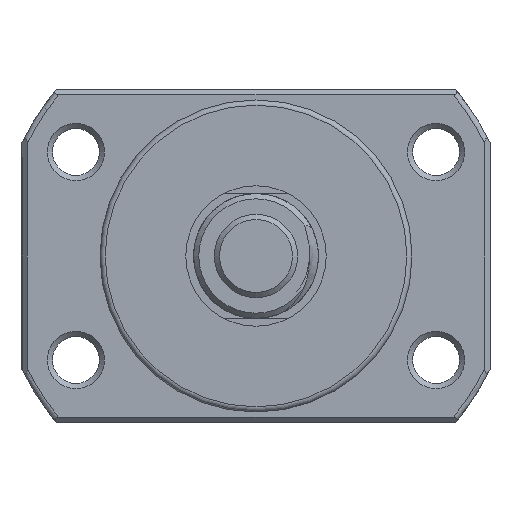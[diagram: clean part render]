
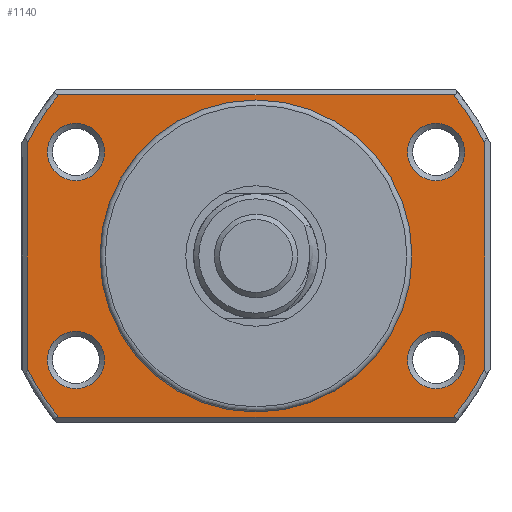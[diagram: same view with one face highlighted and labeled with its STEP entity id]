
A CAD part, left-side view. The second image highlights one B-rep face of the part: STEP entity #1140.
In plain terms, the highlighted planar face has unit normal (-1, 0, 0).
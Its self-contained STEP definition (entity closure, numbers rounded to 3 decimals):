
#128 = EDGE_LOOP ( 'NONE', ( #3822 ) ) ;
#306 = CARTESIAN_POINT ( 'NONE',  ( -10.324, -22., 0. ) ) ;
#583 = EDGE_CURVE ( 'NONE', #4762, #10753, #14705, .T. ) ;
#698 = CARTESIAN_POINT ( 'NONE',  ( -10.324, 15., -15.5 ) ) ;
#712 = FACE_BOUND ( 'NONE', #2018, .T. ) ;
#1036 = DIRECTION ( 'NONE',  ( 1., 0., 0. ) ) ;
#1057 = AXIS2_PLACEMENT_3D ( 'NONE', #12695, #10458, #15144 ) ;
#1086 = ORIENTED_EDGE ( 'NONE', *, *, #10272, .T. ) ;
#1140 = ADVANCED_FACE ( 'NONE', ( #712, #8031, #13872, #5416, #6719, #6492 ), #10338, .T. ) ;
#1363 = VERTEX_POINT ( 'NONE', #6305 ) ;
#1455 = DIRECTION ( 'NONE',  ( 0., 0., 1. ) ) ;
#1594 = EDGE_CURVE ( 'NONE', #13457, #4762, #6972, .T. ) ;
#1707 = CARTESIAN_POINT ( 'NONE',  ( -10.324, 17.321, 10. ) ) ;
#1813 = VECTOR ( 'NONE', #3927, 1000. ) ;
#2009 = DIRECTION ( 'NONE',  ( 0., 0., 1. ) ) ;
#2018 = EDGE_LOOP ( 'NONE', ( #8694 ) ) ;
#2066 = CIRCLE ( 'NONE', #6486, 2.75 ) ;
#2088 = DIRECTION ( 'NONE',  ( -1., 0., 0. ) ) ;
#2281 = EDGE_CURVE ( 'NONE', #4436, #4436, #2066, .T. ) ;
#2440 = CARTESIAN_POINT ( 'NONE',  ( -10.324, 0., 0. ) ) ;
#3285 = VECTOR ( 'NONE', #3717, 1000. ) ;
#3717 = DIRECTION ( 'NONE',  ( 0., 0., -1. ) ) ;
#3753 = CARTESIAN_POINT ( 'NONE',  ( -10.324, 0., 0. ) ) ;
#3822 = ORIENTED_EDGE ( 'NONE', *, *, #5575, .T. ) ;
#3847 = EDGE_CURVE ( 'NONE', #4919, #12482, #7778, .T. ) ;
#3927 = DIRECTION ( 'NONE',  ( 0., 0., 1. ) ) ;
#4008 = CIRCLE ( 'NONE', #4248, 24.5 ) ;
#4248 = AXIS2_PLACEMENT_3D ( 'NONE', #2440, #7126, #5975 ) ;
#4258 = DIRECTION ( 'NONE',  ( -1., 0., 0. ) ) ;
#4436 = VERTEX_POINT ( 'NONE', #7184 ) ;
#4517 = CIRCLE ( 'NONE', #6731, 2.75 ) ;
#4762 = VERTEX_POINT ( 'NONE', #5010 ) ;
#4919 = VERTEX_POINT ( 'NONE', #14314 ) ;
#4956 = CARTESIAN_POINT ( 'NONE',  ( -10.324, -22., 10.782 ) ) ;
#4997 = DIRECTION ( 'NONE',  ( -1., 0., 0. ) ) ;
#5010 = CARTESIAN_POINT ( 'NONE',  ( -10.324, -22., -10.782 ) ) ;
#5402 = DIRECTION ( 'NONE',  ( 0., -1., 0. ) ) ;
#5416 = FACE_BOUND ( 'NONE', #128, .T. ) ;
#5483 = ORIENTED_EDGE ( 'NONE', *, *, #9159, .T. ) ;
#5575 = EDGE_CURVE ( 'NONE', #10647, #10647, #4517, .T. ) ;
#5620 = DIRECTION ( 'NONE',  ( 1., 0., 0. ) ) ;
#5955 = CARTESIAN_POINT ( 'NONE',  ( -10.324, 17.321, 12.75 ) ) ;
#5974 = CIRCLE ( 'NONE', #12127, 24.5 ) ;
#5975 = DIRECTION ( 'NONE',  ( 0., 0., 1. ) ) ;
#6089 = EDGE_CURVE ( 'NONE', #1363, #13457, #7703, .T. ) ;
#6189 = VERTEX_POINT ( 'NONE', #9413 ) ;
#6305 = CARTESIAN_POINT ( 'NONE',  ( -10.324, 18.974, -15.5 ) ) ;
#6338 = AXIS2_PLACEMENT_3D ( 'NONE', #10176, #15026, #14877 ) ;
#6486 = AXIS2_PLACEMENT_3D ( 'NONE', #10353, #1036, #7100 ) ;
#6492 = FACE_BOUND ( 'NONE', #14070, .T. ) ;
#6719 = FACE_OUTER_BOUND ( 'NONE', #9077, .T. ) ;
#6722 = AXIS2_PLACEMENT_3D ( 'NONE', #12692, #5620, #12898 ) ;
#6731 = AXIS2_PLACEMENT_3D ( 'NONE', #1707, #7477, #12407 ) ;
#6972 = CIRCLE ( 'NONE', #8439, 24.5 ) ;
#7100 = DIRECTION ( 'NONE',  ( 0., 0., 1. ) ) ;
#7108 = VERTEX_POINT ( 'NONE', #11808 ) ;
#7126 = DIRECTION ( 'NONE',  ( -1., 0., 0. ) ) ;
#7184 = CARTESIAN_POINT ( 'NONE',  ( -10.324, -17.321, 12.75 ) ) ;
#7477 = DIRECTION ( 'NONE',  ( 1., 0., 0. ) ) ;
#7696 = CIRCLE ( 'NONE', #1057, 24.5 ) ;
#7702 = CARTESIAN_POINT ( 'NONE',  ( -10.324, 0., 0. ) ) ;
#7703 = LINE ( 'NONE', #698, #13856 ) ;
#7778 = LINE ( 'NONE', #9009, #8706 ) ;
#7791 = ORIENTED_EDGE ( 'NONE', *, *, #13627, .T. ) ;
#7859 = DIRECTION ( 'NONE',  ( 0., 0., 1. ) ) ;
#8031 = FACE_BOUND ( 'NONE', #11806, .T. ) ;
#8053 = CARTESIAN_POINT ( 'NONE',  ( -10.324, 22., -10.782 ) ) ;
#8191 = EDGE_CURVE ( 'NONE', #12482, #8455, #4008, .T. ) ;
#8439 = AXIS2_PLACEMENT_3D ( 'NONE', #7702, #10322, #7859 ) ;
#8455 = VERTEX_POINT ( 'NONE', #8665 ) ;
#8665 = CARTESIAN_POINT ( 'NONE',  ( -10.324, 22., 10.782 ) ) ;
#8694 = ORIENTED_EDGE ( 'NONE', *, *, #2281, .T. ) ;
#8706 = VECTOR ( 'NONE', #13693, 1000. ) ;
#8804 = CARTESIAN_POINT ( 'NONE',  ( -10.324, 0., 15. ) ) ;
#8924 = AXIS2_PLACEMENT_3D ( 'NONE', #10103, #4258, #8954 ) ;
#8954 = DIRECTION ( 'NONE',  ( 0., 0., 1. ) ) ;
#9009 = CARTESIAN_POINT ( 'NONE',  ( -10.324, 15., 15.5 ) ) ;
#9077 = EDGE_LOOP ( 'NONE', ( #13999, #13226, #14543, #10847, #5483, #15100, #11545, #11911 ) ) ;
#9159 = EDGE_CURVE ( 'NONE', #15234, #1363, #7696, .T. ) ;
#9413 = CARTESIAN_POINT ( 'NONE',  ( -10.324, -17.321, -7.25 ) ) ;
#9790 = EDGE_CURVE ( 'NONE', #10753, #4919, #5974, .T. ) ;
#10103 = CARTESIAN_POINT ( 'NONE',  ( -10.324, 15., 0. ) ) ;
#10176 = CARTESIAN_POINT ( 'NONE',  ( -10.324, 17.321, -10. ) ) ;
#10272 = EDGE_CURVE ( 'NONE', #6189, #6189, #12382, .T. ) ;
#10322 = DIRECTION ( 'NONE',  ( -1., 0., 0. ) ) ;
#10338 = PLANE ( 'NONE',  #8924 ) ;
#10353 = CARTESIAN_POINT ( 'NONE',  ( -10.324, -17.321, 10. ) ) ;
#10458 = DIRECTION ( 'NONE',  ( -1., 0., 0. ) ) ;
#10647 = VERTEX_POINT ( 'NONE', #5955 ) ;
#10745 = EDGE_CURVE ( 'NONE', #8455, #15234, #10807, .T. ) ;
#10753 = VERTEX_POINT ( 'NONE', #4956 ) ;
#10807 = LINE ( 'NONE', #14111, #3285 ) ;
#10847 = ORIENTED_EDGE ( 'NONE', *, *, #10745, .T. ) ;
#11254 = ORIENTED_EDGE ( 'NONE', *, *, #14040, .F. ) ;
#11545 = ORIENTED_EDGE ( 'NONE', *, *, #1594, .T. ) ;
#11601 = CARTESIAN_POINT ( 'NONE',  ( -10.324, 18.974, 15.5 ) ) ;
#11806 = EDGE_LOOP ( 'NONE', ( #1086 ) ) ;
#11808 = CARTESIAN_POINT ( 'NONE',  ( -10.324, 17.321, -7.25 ) ) ;
#11911 = ORIENTED_EDGE ( 'NONE', *, *, #583, .T. ) ;
#12005 = EDGE_LOOP ( 'NONE', ( #7791 ) ) ;
#12127 = AXIS2_PLACEMENT_3D ( 'NONE', #3753, #4997, #1455 ) ;
#12382 = CIRCLE ( 'NONE', #6722, 2.75 ) ;
#12407 = DIRECTION ( 'NONE',  ( 0., 0., 1. ) ) ;
#12482 = VERTEX_POINT ( 'NONE', #11601 ) ;
#12692 = CARTESIAN_POINT ( 'NONE',  ( -10.324, -17.321, -10. ) ) ;
#12695 = CARTESIAN_POINT ( 'NONE',  ( -10.324, 0., 0. ) ) ;
#12898 = DIRECTION ( 'NONE',  ( 0., 0., 1. ) ) ;
#13226 = ORIENTED_EDGE ( 'NONE', *, *, #3847, .T. ) ;
#13457 = VERTEX_POINT ( 'NONE', #14490 ) ;
#13461 = CIRCLE ( 'NONE', #15176, 15. ) ;
#13627 = EDGE_CURVE ( 'NONE', #7108, #7108, #14941, .T. ) ;
#13693 = DIRECTION ( 'NONE',  ( 0., 1., 0. ) ) ;
#13768 = CARTESIAN_POINT ( 'NONE',  ( -10.324, 0., 0. ) ) ;
#13856 = VECTOR ( 'NONE', #5402, 1000. ) ;
#13872 = FACE_BOUND ( 'NONE', #12005, .T. ) ;
#13999 = ORIENTED_EDGE ( 'NONE', *, *, #9790, .T. ) ;
#14040 = EDGE_CURVE ( 'NONE', #14656, #14656, #13461, .T. ) ;
#14070 = EDGE_LOOP ( 'NONE', ( #11254 ) ) ;
#14111 = CARTESIAN_POINT ( 'NONE',  ( -10.324, 22., 0. ) ) ;
#14314 = CARTESIAN_POINT ( 'NONE',  ( -10.324, -18.974, 15.5 ) ) ;
#14490 = CARTESIAN_POINT ( 'NONE',  ( -10.324, -18.974, -15.5 ) ) ;
#14543 = ORIENTED_EDGE ( 'NONE', *, *, #8191, .T. ) ;
#14656 = VERTEX_POINT ( 'NONE', #8804 ) ;
#14705 = LINE ( 'NONE', #306, #1813 ) ;
#14877 = DIRECTION ( 'NONE',  ( 0., 0., 1. ) ) ;
#14941 = CIRCLE ( 'NONE', #6338, 2.75 ) ;
#15026 = DIRECTION ( 'NONE',  ( 1., 0., 0. ) ) ;
#15100 = ORIENTED_EDGE ( 'NONE', *, *, #6089, .T. ) ;
#15144 = DIRECTION ( 'NONE',  ( 0., 0., 1. ) ) ;
#15176 = AXIS2_PLACEMENT_3D ( 'NONE', #13768, #2088, #2009 ) ;
#15234 = VERTEX_POINT ( 'NONE', #8053 ) ;
